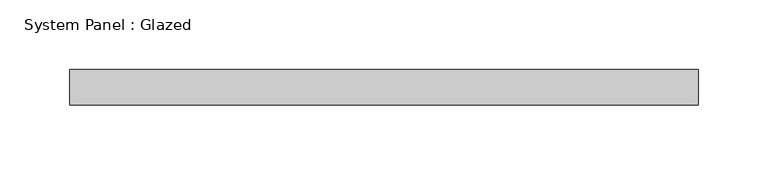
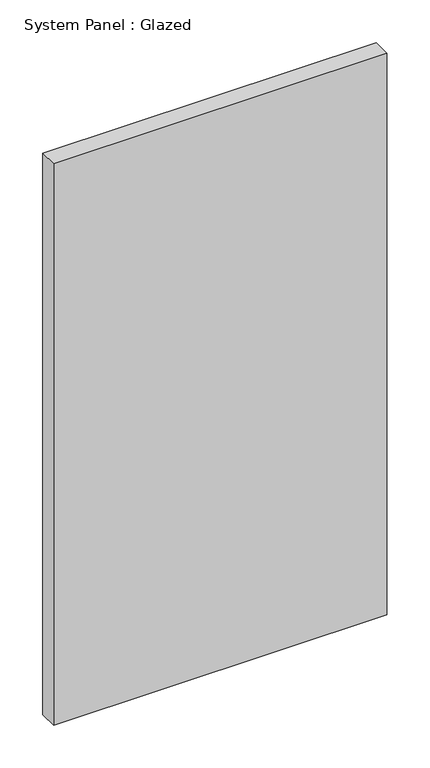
"""IFC4 building model written with IfcOpenShell, lengths in millimetres: plate geometry, System Panel : Glazed."""

from ifc_helpers import new_model, si_unit, origin, origin_with_axes, place, context, project, spatial, polyline, outline, extrude, source, transform, mapped, element, save


def system_panel_glazed_5ae3ba9e(model_context):
    return source(origin(), model_context, "Body", "SweptSolid", [
        extrude(outline(polyline([(225.3454554, 19.05), (-225.3454554, 19.05), (-225.3454554, 44.45), (225.3454554, 44.45), (225.3454554, 19.05)])), origin_with_axes(), (0.0, 0.0, 1.0), 802.4190025),
    ])


if __name__ == "__main__":
    model = new_model("IFC4")
    model_context = context("Model", 3, world=origin())
    ifc_project = project(units=[si_unit("LENGTHUNIT", "METRE", prefix="MILLI")], contexts=[model_context])
    site = spatial("IfcSite", under=ifc_project)
    building = spatial("IfcBuilding", under=site)
    placement = place(None, origin())
    system_panel_glazed_shape = system_panel_glazed_5ae3ba9e(model_context)
    element("IfcPlate", 1, ObjectType="System Panel : Glazed", at=placement, inside=building, context=model_context, shape_type="MappedRepresentation", body=[
        mapped(system_panel_glazed_shape, transform((0.0, 0.0, 0.0), x_axis=(1.0, 0.0, 0.0), y_axis=(0.0, 1.0, 0.0), z_axis=(0.0, 0.0, 1.0))),
    ])
    save(model, "model.ifc")
